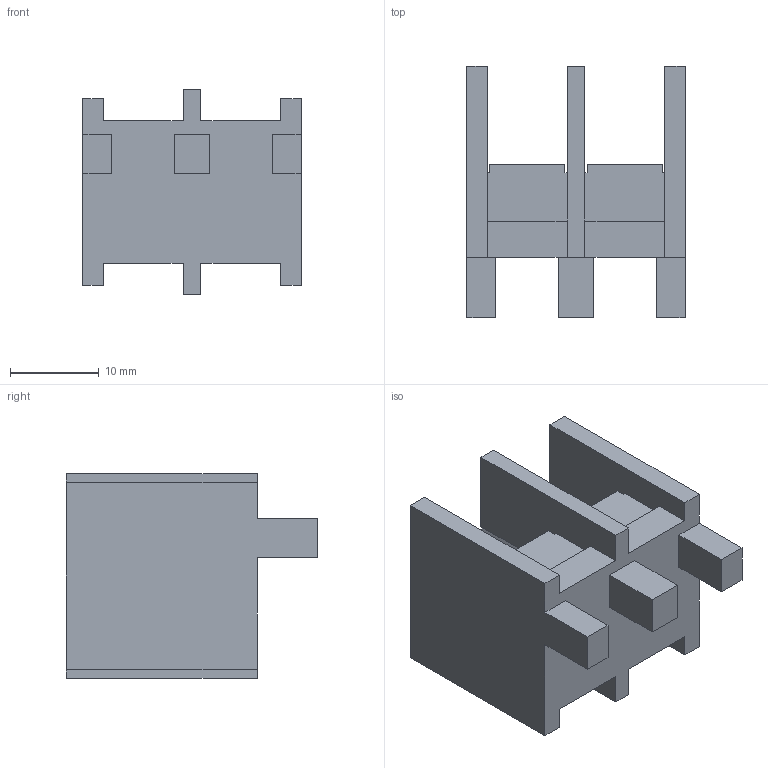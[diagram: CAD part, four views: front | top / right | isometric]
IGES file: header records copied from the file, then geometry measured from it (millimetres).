
Start section:  PTC IGES file: j4-du9-11k-te3.igs
Global section: file name: j4-du9-11k-te3.igs; native system: Creo Parametric by Parametric Technology Corporation; preprocessor: 2014310; author: JR20012; organization: Unknown; date: 20160927.133803; units: millimetre
Bounding box: 24.6 x 28.3 x 23 mm (x, y, z)
Volume: 5837 mm3; surface area: 4341.7 mm2
Topology: 1 solids, 1 shells, 65 faces, 180 edges, 120 vertices
Faces by surface type: bspline 65
